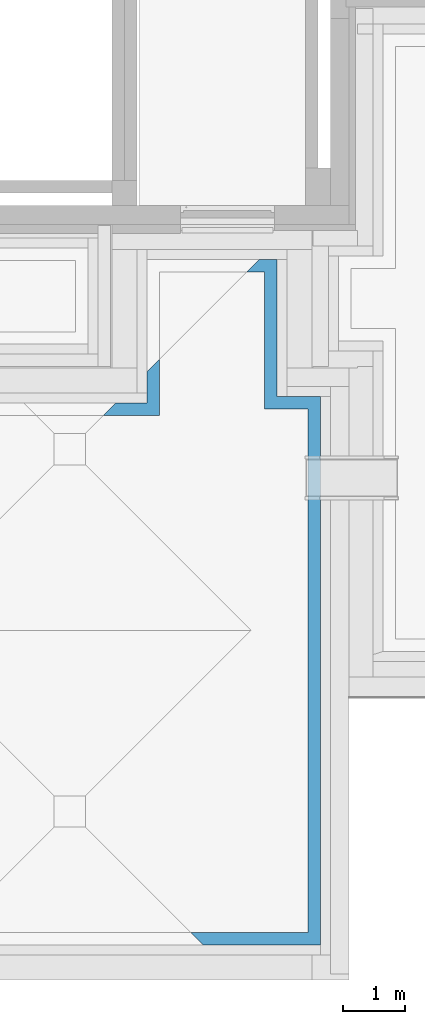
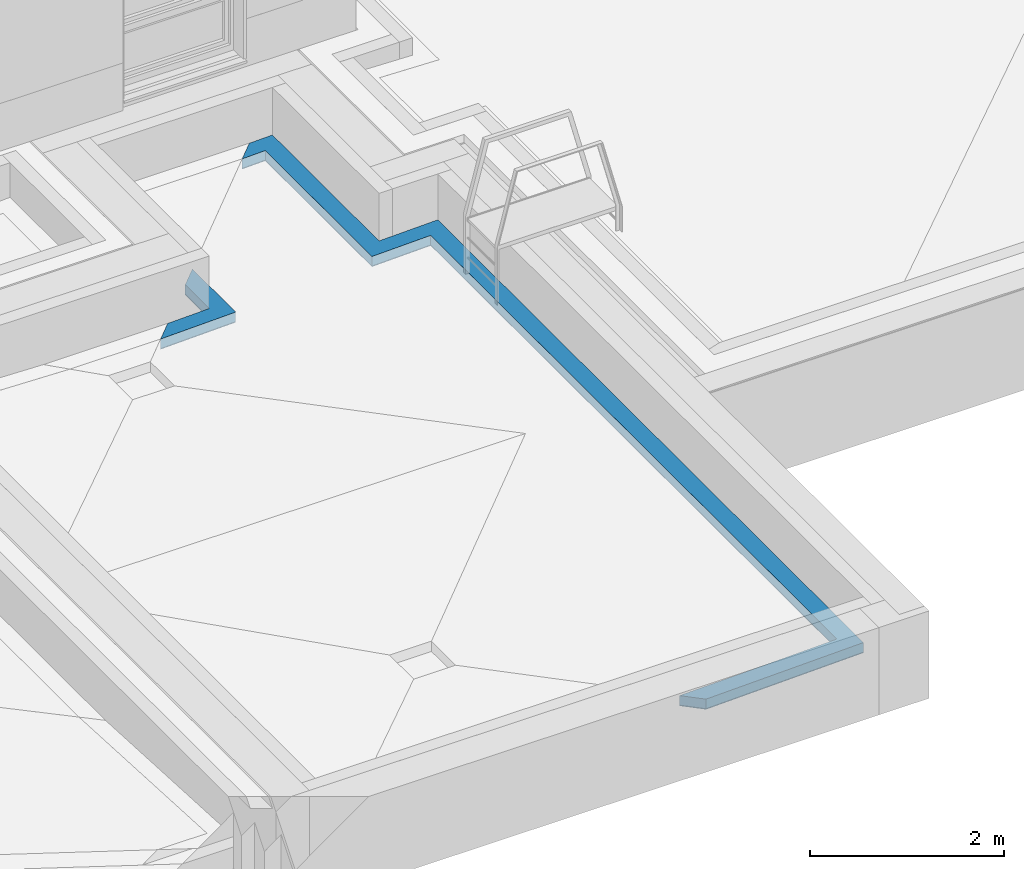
# One storey, part 48 of 50: 2 building element parts, 2 elements without a shape of their own.
"""IFC4 building model written with IfcOpenShell, lengths in metres."""

from ifc_helpers import new_model, entity, si_unit, converted_unit, derived_unit, frame, origin, place, context, subcontext, project, spatial, faceted_brep, material, element, aggregate, save


model = new_model("IFC4")

# Units and contexts
model_context = context("Model", 3, precision=1e-05, world=origin())
body_context = subcontext(model_context, "Body", "Model", "MODEL_VIEW")
ifc_project = project(units=[si_unit("LENGTHUNIT", "METRE"), si_unit("AREAUNIT", "SQUARE_METRE"), si_unit("VOLUMEUNIT", "CUBIC_METRE"), si_unit("MASSUNIT", "GRAM", prefix="KILO"), converted_unit("PLANEANGLEUNIT", "DEGREE", entity("IfcPlaneAngleMeasure", 0.0174532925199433), si_unit("PLANEANGLEUNIT", "RADIAN"), dimensions=[0, 0, 0, 0, 0, 0, 0]), derived_unit("THERMALTRANSMITTANCEUNIT", [(si_unit("POWERUNIT", "WATT"), 1), (si_unit("THERMODYNAMICTEMPERATUREUNIT", "KELVIN"), -1), (si_unit("LENGTHUNIT", "METRE"), -2)]), derived_unit("VOLUMETRICFLOWRATEUNIT", [(si_unit("LENGTHUNIT", "METRE"), 3), (converted_unit("TIMEUNIT", "hour", entity("IfcTimeMeasure", 3600.0), si_unit("TIMEUNIT", "SECOND"), dimensions=[0, 0, 1, 0, 0, 0, 0]), -1), (si_unit("LENGTHUNIT", "METRE"), -1)])], contexts=[model_context])

# Site, building, storey
site_placement = place(None, origin())
site = spatial("IfcSite", under=ifc_project, at=site_placement, Name="3. ASŘ", CompositionType="ELEMENT")
building_placement = place(site_placement, origin())
building = spatial("IfcBuilding", under=site, at=building_placement, Name="Pavilon C", CompositionType="ELEMENT")
storey_placement = place(building_placement, frame((0.0, 0.0, 3.6)))
storey = spatial("IfcBuildingStorey", under=building, at=storey_placement, Name="Půdorys 2.NP", CompositionType="ELEMENT", Elevation=3.6)

# Roof, slab, building element parts
roof_placement = place(storey_placement, frame((0.0, 0.0, -3.6)))
roof = element("IfcRoof", 1, at=roof_placement, inside=storey, PredefinedType="NOTDEFINED")
slab_placement = place(roof_placement, origin())
slab = element("IfcSlab", 2, at=slab_placement, PredefinedType="ROOF")
aggregate(roof, [slab])
ifc_material_1 = material(Name="KAČÍREK")
building_element_part_1_placement = place(storey_placement, frame((0.0, 0.0, -3.6)))
building_element_part_1 = element("IfcBuildingElementPart", 3, at=building_element_part_1_placement, material=ifc_material_1, context=body_context, shape_type="Brep", body=[
    faceted_brep([(42.7149999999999, -5.26, 3.81770449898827), (42.99, -5.26, 3.82595449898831), (42.99, -7.46, 3.82595449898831), (43.69, -7.46, 3.84695449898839), (43.69, -15.84, 3.84695449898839), (41.8150000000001, -15.84, 3.79070449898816), (42.0150000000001, -16.04, 3.79670449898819), (43.89, -16.04, 3.85295449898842), (43.89, -7.26, 3.85295449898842), (43.19, -7.26, 3.83195449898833), (43.19, -5.06, 3.83195449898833), (42.9149999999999, -5.06, 3.82370449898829), (41.11, -7.36, 3.76955449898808), (40.615, -7.36, 3.75470449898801), (40.415, -7.56, 3.74870449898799), (41.31, -7.56, 3.7755544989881), (41.31, -6.66499999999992, 3.7755544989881), (41.11, -6.86499999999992, 3.76955449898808), (42.7149999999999, -5.26, 3.93775848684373), (42.9149999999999, -5.06, 3.94375848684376), (43.19, -5.06, 3.9520084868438), (43.19, -7.26, 3.9520084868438), (43.89, -7.26, 3.97300848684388), (43.89, -16.04, 3.97300848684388), (42.015, -16.04, 3.91675848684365), (41.815, -15.84, 3.91075848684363), (43.69, -15.84, 3.96700848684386), (43.69, -7.46, 3.96700848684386), (42.99, -7.46, 3.94600848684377), (42.99, -5.26, 3.94600848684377), (41.11, -7.36, 3.88960848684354), (41.11, -6.86499999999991, 3.88960848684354), (41.31, -6.66499999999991, 3.89560848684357), (41.31, -7.56, 3.89560848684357), (40.415, -7.56, 3.86875848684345), (40.615, -7.36, 3.87475848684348)], [[[0, 1, 2, 3, 4, 5, 6, 7, 8, 9, 10, 11], [12, 13, 14, 15, 16, 17]], [[18, 19, 20, 21, 22, 23, 24, 25, 26, 27, 28, 29], [30, 31, 32, 33, 34, 35]], [[30, 35, 13, 12]], [[35, 34, 14, 13]], [[34, 33, 15, 14]], [[33, 32, 16, 15]], [[32, 31, 17, 16]], [[31, 30, 12, 17]], [[18, 29, 1, 0]], [[29, 28, 2, 1]], [[28, 27, 3, 2]], [[27, 26, 4, 3]], [[26, 25, 5, 4]], [[25, 24, 6, 5]], [[24, 23, 7, 6]], [[23, 22, 8, 7]], [[22, 21, 9, 8]], [[21, 20, 10, 9]], [[20, 19, 11, 10]], [[19, 18, 0, 11]]], orient=[[False, False], [False, False], [False], [False], [False], [False], [False], [False], [False], [False], [False], [False], [False], [False], [False], [False], [False], [False], [False], [False]], outer=[[True, True], [True, True], [True], [True], [True], [True], [True], [True], [True], [True], [True], [True], [True], [True], [True], [True], [True], [True], [True], [True]]),
])
ifc_material_2 = material(Name="ASFALTOVÁ HYDROIZOLACE")
building_element_part_2_placement = place(storey_placement, frame((0.0, 0.0, -3.6)))
building_element_part_2 = element("IfcBuildingElementPart", 4, at=building_element_part_2_placement, material=ifc_material_2, context=body_context, shape_type="Brep", body=[
    faceted_brep([(42.7149999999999, -5.26, 3.80770000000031), (42.99, -5.26, 3.81595000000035), (42.99, -7.46, 3.81595000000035), (43.69, -7.46, 3.83695000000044), (43.69, -15.84, 3.83695000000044), (41.8150000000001, -15.84, 3.78070000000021), (42.015, -16.04, 3.78670000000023), (43.89, -16.04, 3.84295000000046), (43.89, -7.26, 3.84295000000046), (43.19, -7.26, 3.82195000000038), (43.19, -5.06, 3.82195000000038), (42.9149999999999, -5.06, 3.81370000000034), (41.11, -7.36, 3.75955000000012), (40.615, -7.36, 3.74470000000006), (40.415, -7.56, 3.73870000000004), (41.31, -7.56, 3.76555000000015), (41.31, -6.66499999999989, 3.76555000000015), (41.11, -6.86499999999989, 3.75955000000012), (42.7149999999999, -5.26, 3.81770449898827), (42.9149999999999, -5.06, 3.82370449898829), (43.19, -5.06, 3.83195449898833), (43.19, -7.26, 3.83195449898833), (43.89, -7.26, 3.85295449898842), (43.89, -16.04, 3.85295449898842), (42.0150000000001, -16.04, 3.79670449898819), (41.8150000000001, -15.84, 3.79070449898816), (43.69, -15.84, 3.84695449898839), (43.69, -7.46, 3.84695449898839), (42.99, -7.46, 3.82595449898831), (42.99, -5.26, 3.82595449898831), (41.11, -7.36, 3.76955449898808), (41.11, -6.86499999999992, 3.76955449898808), (41.31, -6.66499999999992, 3.7755544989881), (41.31, -7.56, 3.7755544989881), (40.415, -7.56, 3.74870449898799), (40.615, -7.36, 3.75470449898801)], [[[0, 1, 2, 3, 4, 5, 6, 7, 8, 9, 10, 11], [12, 13, 14, 15, 16, 17]], [[18, 19, 20, 21, 22, 23, 24, 25, 26, 27, 28, 29], [30, 31, 32, 33, 34, 35]], [[30, 35, 13, 12]], [[35, 34, 14, 13]], [[34, 33, 15, 14]], [[33, 32, 16, 15]], [[32, 31, 17, 16]], [[31, 30, 12, 17]], [[18, 29, 1, 0]], [[29, 28, 2, 1]], [[28, 27, 3, 2]], [[27, 26, 4, 3]], [[26, 25, 5, 4]], [[25, 24, 6, 5]], [[24, 23, 7, 6]], [[23, 22, 8, 7]], [[22, 21, 9, 8]], [[21, 20, 10, 9]], [[20, 19, 11, 10]], [[19, 18, 0, 11]]], orient=[[False, False], [False, False], [False], [False], [False], [False], [False], [False], [False], [False], [False], [False], [False], [False], [False], [False], [False], [False], [False], [False]], outer=[[True, True], [True, True], [True], [True], [True], [True], [True], [True], [True], [True], [True], [True], [True], [True], [True], [True], [True], [True], [True], [True]]),
])
aggregate(slab, [building_element_part_1, building_element_part_2])

save(model, "model.ifc")
